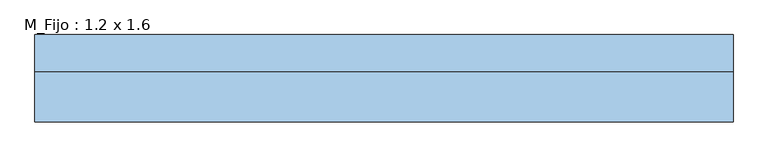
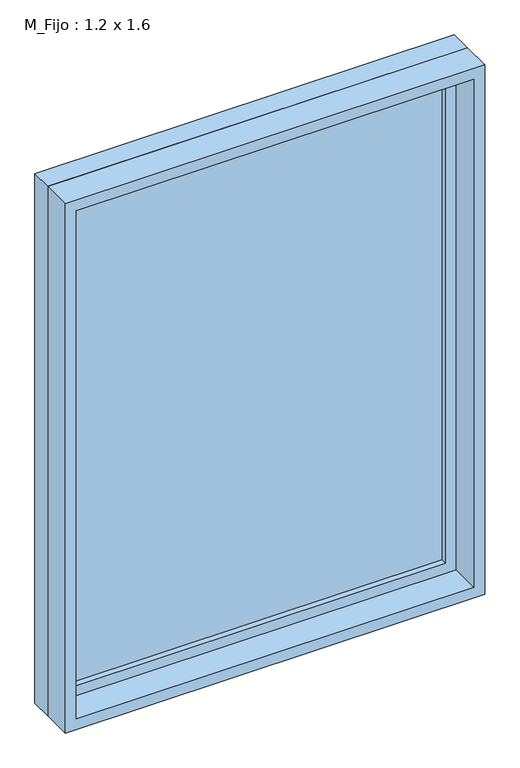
"""IFC4 building model written with IfcOpenShell, lengths in millimetres: window geometry, M_Fijo : 1.2 x 1.6."""

from ifc_helpers import new_model, si_unit, frame, origin, place, context, project, spatial, polyline, outline, extrude, source, transform, mapped, element, save


def m_fijo_1_2_x_1_6_cb8421e6(model_context):
    return source(origin(), model_context, "Body", "SweptSolid", [
        extrude(outline(polyline([(-537.0, 53.0), (537.0, 53.0), (537.0, 41.0), (-537.0, 41.0), (-537.0, 53.0)])), frame((0.0, 0.0, 978.0), z_axis=(0.0, 0.0, 1.0), x_axis=(1.0, 0.0, 0.0)), (0.0, 0.0, 1.0), 1474.0),
        extrude(outline(polyline([(2496.0, -581.0), (934.0, -581.0), (934.0, 581.0), (2496.0, 581.0), (2496.0, -581.0)]), holes=[polyline([(2452.0, -537.0), (2452.0, 537.0), (978.0, 537.0), (978.0, -537.0), (2452.0, -537.0)])]), frame((0.0, 25.0, 0.0), z_axis=(0.0, 1.0, 0.0), x_axis=(0.0, 0.0, 1.0)), (0.0, 0.0, 1.0), 44.0),
        extrude(outline(polyline([(2515.0, -600.0), (915.0, -600.0), (915.0, 600.0), (2515.0, 600.0), (2515.0, -600.0)]), holes=[polyline([(2496.0, -581.0), (2496.0, 581.0), (934.0, 581.0), (934.0, -581.0), (2496.0, -581.0)])]), frame((0.0, 25.0, 0.0), z_axis=(0.0, 1.0, 0.0), x_axis=(0.0, 0.0, 1.0)), (0.0, 0.0, 1.0), 63.0),
        extrude(outline(polyline([(2515.0, -600.0), (915.0, -600.0), (915.0, 600.0), (2515.0, 600.0), (2515.0, -600.0)]), holes=[polyline([(2483.0, -568.0), (2483.0, 568.0), (947.0, 568.0), (947.0, -568.0), (2483.0, -568.0)])]), frame((0.0, -62.0, 0.0), z_axis=(0.0, 1.0, 0.0), x_axis=(0.0, 0.0, 1.0)), (0.0, 0.0, 1.0), 87.0),
    ])


if __name__ == "__main__":
    model = new_model("IFC4")
    model_context = context("Model", 3, world=origin())
    ifc_project = project(units=[si_unit("LENGTHUNIT", "METRE", prefix="MILLI")], contexts=[model_context])
    site = spatial("IfcSite", under=ifc_project)
    building = spatial("IfcBuilding", under=site)
    placement = place(None, origin())
    m_fijo_1_2_x_1_6_shape = m_fijo_1_2_x_1_6_cb8421e6(model_context)
    element("IfcWindow", 1, ObjectType="M_Fijo : 1.2 x 1.6", at=placement, inside=building, context=model_context, shape_type="MappedRepresentation", body=[
        mapped(m_fijo_1_2_x_1_6_shape, transform((0.0, 0.0, 0.0), x_axis=(1.0, 0.0, 0.0), y_axis=(0.0, 1.0, 0.0), z_axis=(0.0, 0.0, 1.0))),
    ])
    save(model, "model.ifc")
